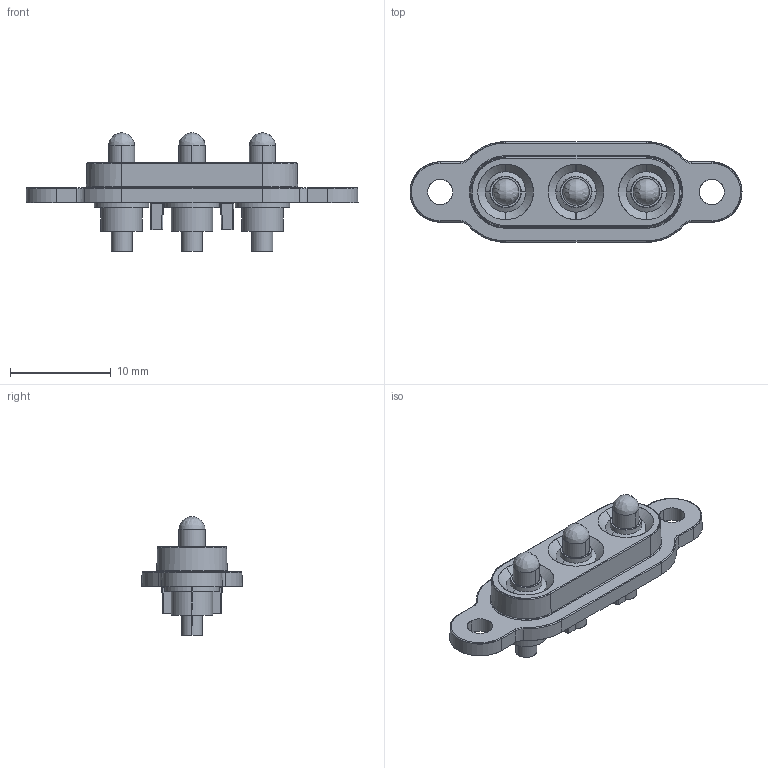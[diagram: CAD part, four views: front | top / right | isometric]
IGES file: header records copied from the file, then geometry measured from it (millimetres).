
Start section: SolidWorks IGES file using analytic representation for surfaces
Global section: file name: F:\OneDrive\Desktop\Coda\28.7\Swift-Dock add 3D\Swift-Dock add 3D\Swift-DOCK Ranges Completed\SD\Swift-Dock-3-SC.IGS; native system: SolidWorks 2021; preprocessor: SolidWorks 2021; author: Georg; date: 210806.134600; units: millimetre
Bounding box: 33 x 10 x 11.8 mm (x, y, z)
Surface area: 1561.4 mm2 (no closed solid volume)
Topology: 0 solids, 0 shells, 208 faces, 2580 edges, 2568 vertices
Faces by surface type: revolution 138, bspline 70
